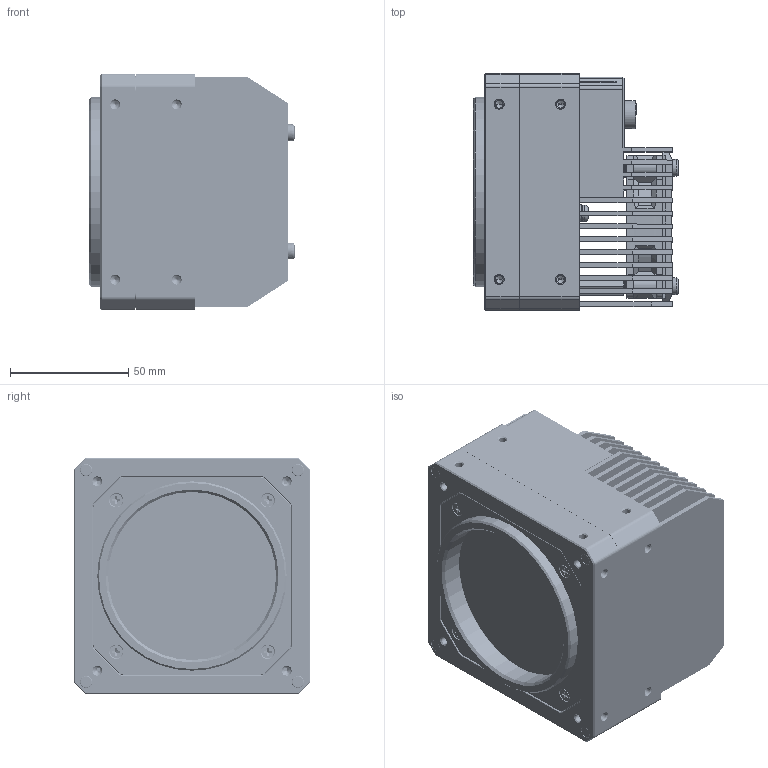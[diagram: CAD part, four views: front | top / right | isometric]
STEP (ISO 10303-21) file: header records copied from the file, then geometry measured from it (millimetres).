
FILE_DESCRIPTION((''),'2;1');
FILE_NAME('00-MV-CH1510-11XM-V2_ASM_ASM','2025-05-07T10:26:04',('wangyijun6'),(''),'CREO PARAMETRIC BY PTC INC, 2020044','CREO PARAMETRIC BY PTC INC, 2020044','');
FILE_SCHEMA(('CONFIG_CONTROL_DESIGN'));
Products named in the file (1): 00-MV-CH1510-11XM-V2_ASM_ASM
Bounding box: 86.64 x 100 x 100 mm (x, y, z)
Volume: 468732.7 mm3; surface area: 185438.5 mm2
Topology: 2 solids, 52 shells, 3789 faces, 10204 edges, 6470 vertices
Faces by surface type: plane 1633, cylinder 1323, cone 498, bspline 185, torus 120, extrusion 24, revolution 6
Entity records: 190123 total; most frequent: CARTESIAN_POINT 96546, ORIENTED_EDGE 20094, DIRECTION 18880, EDGE_CURVE 10114, AXIS2_PLACEMENT_3D 6820, VERTEX_POINT 6470, VECTOR 5234, LINE 5210
